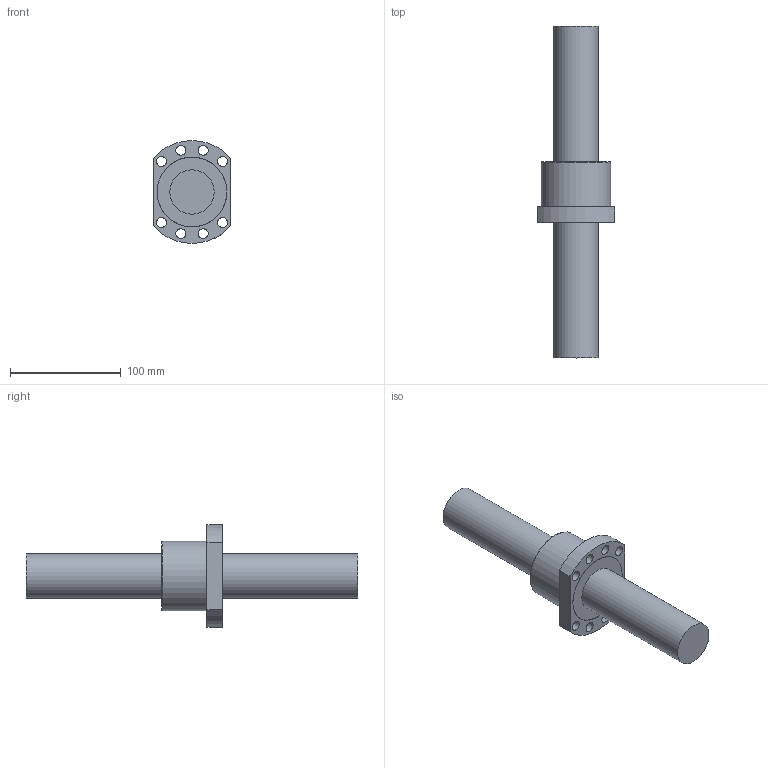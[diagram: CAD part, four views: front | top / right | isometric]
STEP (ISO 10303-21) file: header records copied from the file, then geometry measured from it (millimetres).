
FILE_DESCRIPTION(/* description */ (''),/* implementation_level */ '2;1');
FILE_NAME(/* name */ '4005.stp',/* time_stamp */ '2014-07-11T13:22:05+08:00',/* author */ (''),/* organization */ (''),/* preprocessor_version */ 'ST-DEVELOPER v11',/* originating_system */ 'SIEMENS UGS NX 6.0',/* authorisation */ '');
FILE_SCHEMA (('CONFIG_CONTROL_DESIGN'));
Length unit declared in the file: millimetre
Products named in the file (1): kcc5E5Cj7rw
Bounding box: 70 x 300 x 93 mm (x, y, z)
Volume: 509284.8 mm3; surface area: 78763.2 mm2
Topology: 4 solids, 4 shells, 34 faces, 83 edges, 58 vertices
Faces by surface type: cylinder 20, plane 13, torus 1
Full cylindrical faces by diameter (mm): 6.5 x1, 9 x8, 40 x4, 48 x2, 63 x3
Entity records: 1066 total; most frequent: CARTESIAN_POINT 250, DIRECTION 158, ORIENTED_EDGE 104, EDGE_LOOP 78, AXIS2_PLACEMENT_3D 74, FACE_BOUND 72, EDGE_CURVE 52, VERTEX_POINT 46
